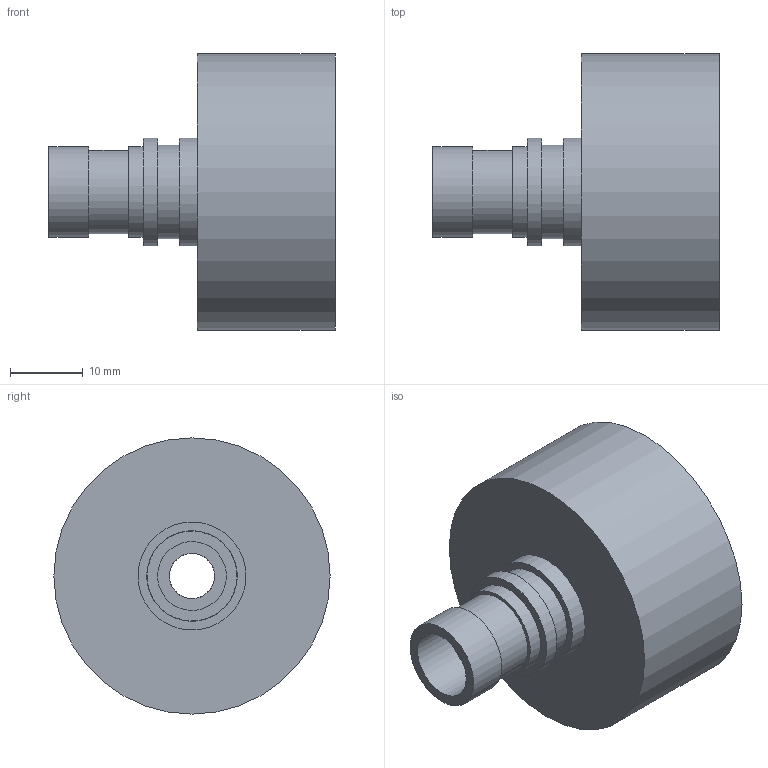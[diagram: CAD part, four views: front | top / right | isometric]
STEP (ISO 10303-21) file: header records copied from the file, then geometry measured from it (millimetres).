
FILE_DESCRIPTION (( 'STEP AP203' ), '1' );
FILE_NAME ('70-9.5R38.1-PH.STEP', '2013-08-29T08:47:37', ( '' ), ( '' ), 'SwSTEP 2.0', 'SolidWorks 2012', '' );
FILE_SCHEMA (( 'CONFIG_CONTROL_DESIGN' ));
Length unit declared in the file: millimetre
Products named in the file (3): 70-9.5R38.1-PH; 70-9.5T; 仩R38.1PH(25.4 31.8埲奜梡)
Assembly tree (2 placements, depth 2):
  70-9.5R38.1-PH
    仩R38.1PH(25.4 31.8埲奜梡)
    70-9.5T
Bounding box: 39.5 x 38.1 x 38.1 mm (x, y, z)
Volume: 12414.9 mm3; surface area: 7386.4 mm2
Topology: 2 solids, 2 shells, 23 faces, 38 edges, 25 vertices
Faces by surface type: cylinder 11, plane 10, cone 1, torus 1
Full cylindrical faces by diameter (mm): 6.25 x2, 9.48 x1, 11.48 x1, 12.43 x1, 12.5 x1, 12.9 x1, 14.9 x2, 33.7 x1, 38.1 x1
Entity records: 777 total; most frequent: DIRECTION 102, CARTESIAN_POINT 74, AXIS2_PLACEMENT_3D 51, ORIENTED_EDGE 46, EDGE_LOOP 46, FACE_OUTER_BOUND 35, PERSON_AND_ORGANIZATION 26, EDGE_CURVE 23
